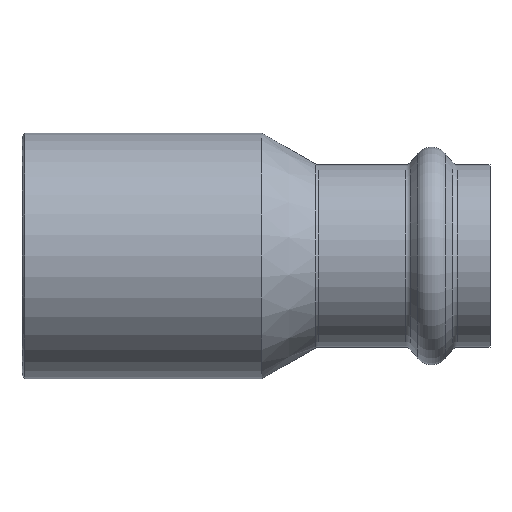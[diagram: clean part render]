
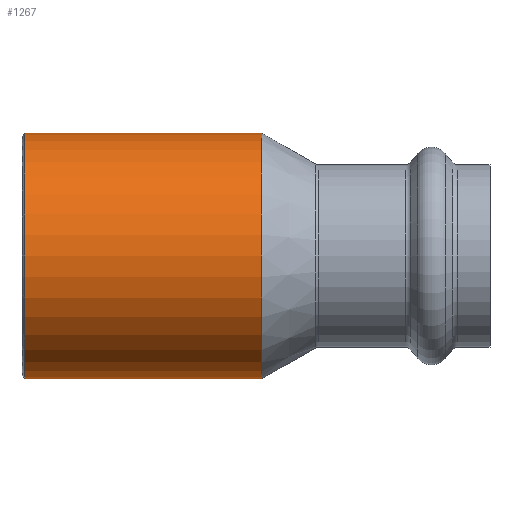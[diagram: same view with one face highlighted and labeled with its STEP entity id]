
A CAD part, front view. The second image highlights one B-rep face of the part: STEP entity #1267.
In plain terms, the highlighted cylindrical face has radius 21 mm (diameter 42 mm), a partial arc.
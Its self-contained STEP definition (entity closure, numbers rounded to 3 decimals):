
#15 = DIRECTION ( 'NONE',  ( 0., 0., 1. ) ) ;
#48 = CIRCLE ( 'NONE', #499, 21. ) ;
#137 = CARTESIAN_POINT ( 'NONE',  ( 0.5, 0., -21. ) ) ;
#143 = ORIENTED_EDGE ( 'NONE', *, *, #630, .F. ) ;
#178 = LINE ( 'NONE', #978, #1190 ) ;
#239 = DIRECTION ( 'NONE',  ( -1., 0., 0. ) ) ;
#248 = CARTESIAN_POINT ( 'NONE',  ( 41., 0., 21. ) ) ;
#266 = FACE_OUTER_BOUND ( 'NONE', #744, .T. ) ;
#272 = VERTEX_POINT ( 'NONE', #456 ) ;
#273 = DIRECTION ( 'NONE',  ( 0., 0., 1. ) ) ;
#317 = ORIENTED_EDGE ( 'NONE', *, *, #765, .T. ) ;
#325 = DIRECTION ( 'NONE',  ( -1., 0., 0. ) ) ;
#348 = CARTESIAN_POINT ( 'NONE',  ( -4.079, 0., 0. ) ) ;
#364 = ORIENTED_EDGE ( 'NONE', *, *, #1090, .T. ) ;
#384 = CARTESIAN_POINT ( 'NONE',  ( 0.5, 0., 21. ) ) ;
#425 = CARTESIAN_POINT ( 'NONE',  ( -4.079, 0., 21. ) ) ;
#436 = AXIS2_PLACEMENT_3D ( 'NONE', #348, #325, #273 ) ;
#455 = VERTEX_POINT ( 'NONE', #384 ) ;
#456 = CARTESIAN_POINT ( 'NONE',  ( 41., 0., -21. ) ) ;
#458 = DIRECTION ( 'NONE',  ( -1., 0., 0. ) ) ;
#499 = AXIS2_PLACEMENT_3D ( 'NONE', #1199, #901, #892 ) ;
#602 = EDGE_CURVE ( 'NONE', #698, #455, #48, .T. ) ;
#612 = CIRCLE ( 'NONE', #1023, 21. ) ;
#630 = EDGE_CURVE ( 'NONE', #272, #698, #178, .T. ) ;
#690 = ORIENTED_EDGE ( 'NONE', *, *, #602, .F. ) ;
#698 = VERTEX_POINT ( 'NONE', #137 ) ;
#744 = EDGE_LOOP ( 'NONE', ( #143, #364, #317, #690 ) ) ;
#765 = EDGE_CURVE ( 'NONE', #995, #455, #1204, .T. ) ;
#892 = DIRECTION ( 'NONE',  ( 0., 0., 1. ) ) ;
#901 = DIRECTION ( 'NONE',  ( -1., 0., 0. ) ) ;
#917 = VECTOR ( 'NONE', #458, 1000. ) ;
#959 = DIRECTION ( 'NONE',  ( -1., 0., 0. ) ) ;
#978 = CARTESIAN_POINT ( 'NONE',  ( -4.079, 0., -21. ) ) ;
#995 = VERTEX_POINT ( 'NONE', #248 ) ;
#1023 = AXIS2_PLACEMENT_3D ( 'NONE', #1167, #239, #15 ) ;
#1090 = EDGE_CURVE ( 'NONE', #272, #995, #612, .T. ) ;
#1167 = CARTESIAN_POINT ( 'NONE',  ( 41., 0., 0. ) ) ;
#1190 = VECTOR ( 'NONE', #959, 1000. ) ;
#1198 = CYLINDRICAL_SURFACE ( 'NONE', #436, 21. ) ;
#1199 = CARTESIAN_POINT ( 'NONE',  ( 0.5, 0., 0. ) ) ;
#1204 = LINE ( 'NONE', #425, #917 ) ;
#1267 = ADVANCED_FACE ( 'NONE', ( #266 ), #1198, .T. ) ;
